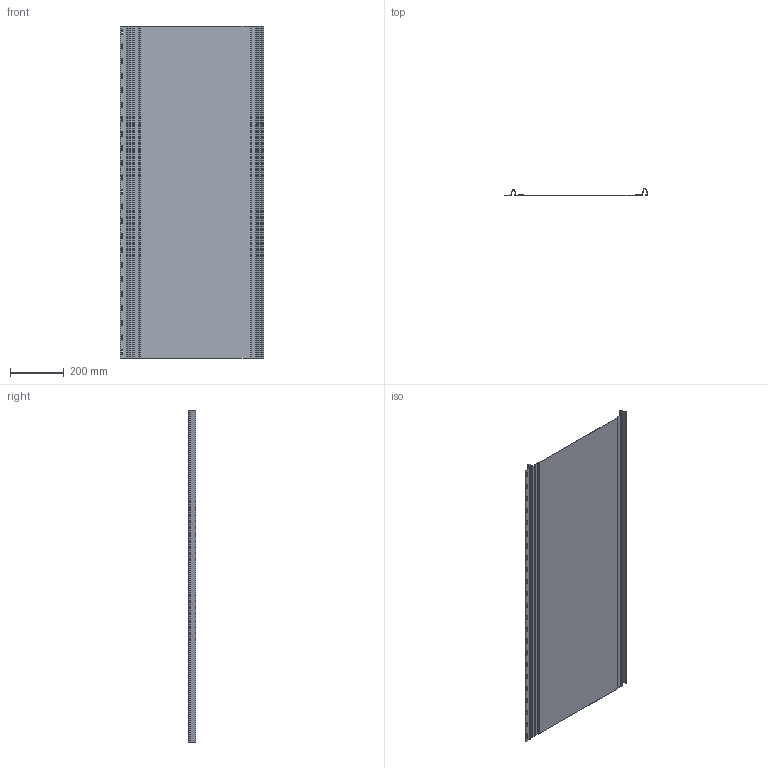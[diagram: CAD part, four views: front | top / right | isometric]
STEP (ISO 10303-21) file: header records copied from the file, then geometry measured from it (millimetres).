
FILE_DESCRIPTION(/* description */ (''),/* implementation_level */ '2;1');
FILE_NAME(/* name */ 'C:\Users\Utilisateur\Mac Metal\Site de communication - Documents\Ingénierie\1. Dessins techniques produits Mac\CAD _ REVIT Profiles drawing - MAC\MS 1\MS1.stp',/* time_stamp */ '2023-01-27T16:09:09-05:00',/* author */ ('Utilisateur'),/* organization */ (''),/* preprocessor_version */ 'ST-DEVELOPER v18.1',/* originating_system */ 'Autodesk Inventor 2022',/* authorisation */ '');
FILE_SCHEMA (('AUTOMOTIVE_DESIGN { 1 0 10303 214 3 1 1 }'));
Length unit declared in the file: inch
Products named in the file (1): MS1
Bounding box: 533.4 x 26.99 x 1231.9 mm (x, y, z)
Volume: 390887.6 mm3; surface area: 1541313.3 mm2
Topology: 1 solids, 1 shells, 178 faces, 528 edges, 352 vertices
Faces by surface type: plane 92, cylinder 86
Entity records: 6139 total; most frequent: CARTESIAN_POINT 1059, DIRECTION 1058, ORIENTED_EDGE 1056, EDGE_CURVE 528, LINE 356, VECTOR 356, VERTEX_POINT 352, AXIS2_PLACEMENT_3D 351
